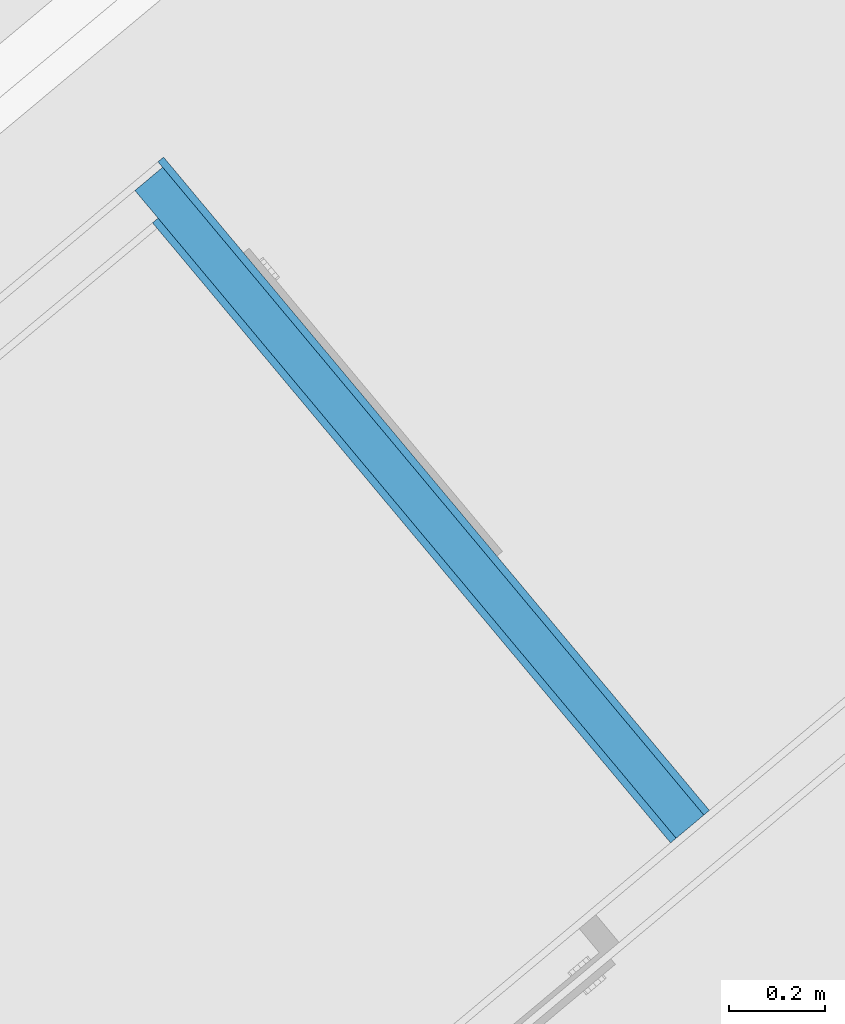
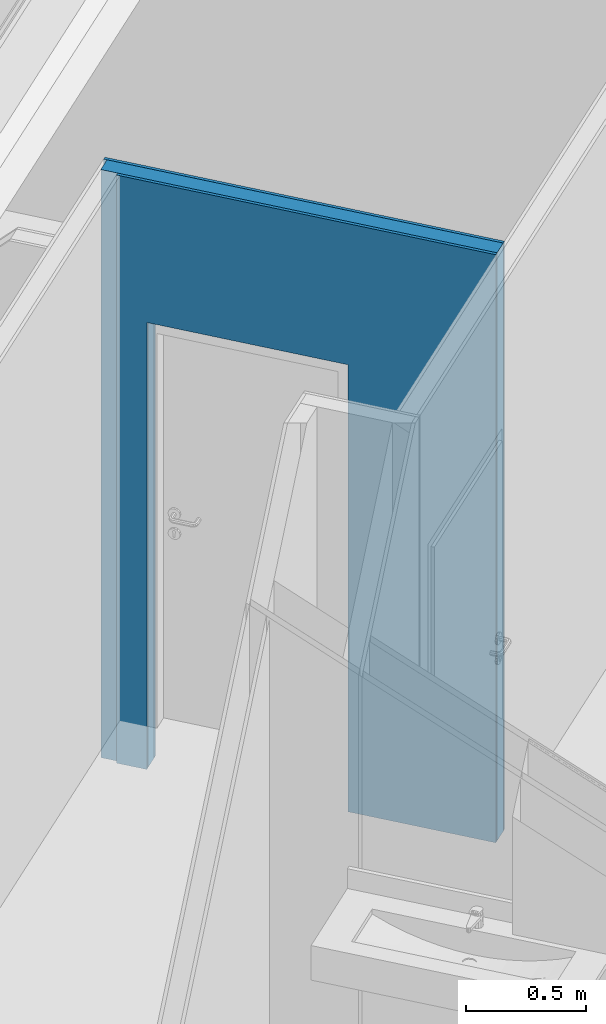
# One storey, part 2 of 47: 3 building element parts, 1 opening, 1 element without a shape of its own.
"""IFC4 building model written with IfcOpenShell, lengths in metres."""

import ifcopenshell
import ifcopenshell.guid

model = None  # the IFC model being written
_history = None  # IfcOwnerHistory: only IFC2X3 demands one
_inside = {}  # id of a spatial element -> (the spatial element, [elements in it])
_under = {}  # id of a project, library or spatial element -> (it, [spatial elements below it])
_declared = {}  # id of a project -> (the project, [libraries it declares])
_typed = {}  # id of a type object -> (the type object, [elements of that type])
_made_of = {}  # id of a material, layer set ... -> (it, [elements and type objects made of it])


def new_model(schema):
    """Start an empty IFC model of exactly this schema.

    Asked for "IFC4X3", IfcOpenShell would pick the latest addendum, in which some entities
    have other attributes; the version numbers below select the first issue.
    IFC2X3 requires an IfcOwnerHistory on every rooted entity: one is made here for all.
    """
    global model, _history
    if schema == "IFC4X3":
        model = ifcopenshell.file(schema_version=(4, 3, 0, 0))
    else:
        model = ifcopenshell.file(schema=schema)
    _inside.clear()
    _under.clear()
    _declared.clear()
    _typed.clear()
    _made_of.clear()
    _history = None
    if model.schema == "IFC2X3":
        org = make("IfcOrganization", Name="unknown")
        user = make(
            "IfcPersonAndOrganization",
            ThePerson=make("IfcPerson", FamilyName="unknown"),
            TheOrganization=org,
        )
        app = make(
            "IfcApplication",
            ApplicationDeveloper=org,
            Version="unknown",
            ApplicationFullName="unknown",
            ApplicationIdentifier="unknown",
        )
        _history = make(
            "IfcOwnerHistory",
            OwningUser=user,
            OwningApplication=app,
            ChangeAction="ADDED",
            CreationDate=0,
        )
    return model


def make(cls, **values):
    """One entity of the class cls with the attributes given. An attribute that is None is left unset."""
    return model.create_entity(
        cls, **{name: value for name, value in values.items() if value is not None}
    )


def entity(cls, *values):
    """Any entity or typed value of the class cls, its attributes in the order of the schema. None: left unset."""
    e = model.create_entity(cls)
    for i, value in enumerate(values):
        if value is not None:
            e[i] = value
    return e


def rooted(cls, **values):
    """An entity with a GlobalId (a new one), such as an element, a storey or a relation."""
    return make(cls, GlobalId=ifcopenshell.guid.new(), OwnerHistory=_history, **values)


def si_unit(unit_type, name, prefix=None):
    """IfcSIUnit, for example si_unit("LENGTHUNIT", "METRE", prefix="MILLI")."""
    return make("IfcSIUnit", UnitType=unit_type, Prefix=prefix, Name=name)


def converted_unit(unit_type, name, factor, base, dimensions=None, offset=None):
    """IfcConversionBasedUnit, such as the inch: factor (a typed value) times the base unit."""
    return make(
        "IfcConversionBasedUnit"
        if offset is None
        else "IfcConversionBasedUnitWithOffset",
        ConversionOffset=offset,
        Dimensions=None
        if dimensions is None
        else entity("IfcDimensionalExponents", *dimensions),
        UnitType=unit_type,
        Name=name,
        ConversionFactor=make(
            "IfcMeasureWithUnit", ValueComponent=factor, UnitComponent=base
        ),
    )


def derived_unit(unit_type, elements):
    """IfcDerivedUnit: a product of units, each with its exponent."""
    return make(
        "IfcDerivedUnit",
        Elements=[
            make("IfcDerivedUnitElement", Unit=unit, Exponent=power)
            for unit, power in elements
        ],
        UnitType=unit_type,
    )


def assignment(units):
    """IfcUnitAssignment: the units of a project."""
    return None if units is None else make("IfcUnitAssignment", Units=units)


def point(xyz):
    """IfcCartesianPoint."""
    return None if xyz is None else make("IfcCartesianPoint", Coordinates=xyz)


def direction(xyz):
    """IfcDirection."""
    return None if xyz is None else make("IfcDirection", DirectionRatios=xyz)


def frame(location, z_axis=None, x_axis=None):
    """IfcAxis2Placement3D, a coordinate frame: its origin and axes. An axis left out is left unset."""
    return make(
        "IfcAxis2Placement3D",
        Location=point(location),
        Axis=direction(z_axis),
        RefDirection=direction(x_axis),
    )


def origin_with_axes():
    """The frame at (0, 0, 0) with the z axis (0, 0, 1) and the x axis (1, 0, 0) written out."""
    return frame((0.0, 0.0, 0.0), z_axis=(0.0, 0.0, 1.0), x_axis=(1.0, 0.0, 0.0))


def place(relative_to, where):
    """IfcLocalPlacement: puts the frame where relative to a parent placement (None: the world)."""
    return make(
        "IfcLocalPlacement", PlacementRelTo=relative_to, RelativePlacement=where
    )


def context(
    kind, dimensions, precision=None, world=None, true_north=None, identifier=None
):
    """IfcGeometricRepresentationContext, for example the 3D "Model" context."""
    return make(
        "IfcGeometricRepresentationContext",
        ContextIdentifier=identifier,
        ContextType=kind,
        CoordinateSpaceDimension=dimensions,
        Precision=precision,
        WorldCoordinateSystem=world,
        TrueNorth=true_north,
    )


def subcontext(parent, identifier, kind, view, scale=None):
    """IfcGeometricRepresentationSubContext, for example "Body" below "Model"."""
    return make(
        "IfcGeometricRepresentationSubContext",
        ContextIdentifier=identifier,
        ContextType=kind,
        ParentContext=parent,
        TargetScale=scale,
        TargetView=view,
    )


def project(units=None, contexts=None):
    """IfcProject with its units and contexts."""
    return rooted(
        "IfcProject",
        Name="project",
        RepresentationContexts=contexts,
        UnitsInContext=assignment(units),
    )


def spatial(cls, under=None, at=None, **own):
    """A site, building, storey or space (cls), placed at a placement, below another one or the project."""
    s = rooted(cls, ObjectPlacement=at, **own)
    if under is not None:
        _under.setdefault(under.id(), (under, []))[1].append(s)
    return s


def point_list(points):
    """IfcCartesianPointList2D or 3D."""
    cls = (
        "IfcCartesianPointList2D" if len(points[0]) == 2 else "IfcCartesianPointList3D"
    )
    return make(cls, CoordList=points)


def polygons(points, faces, closed=None, point_numbers=None):
    """IfcPolygonalFaceSet: a face is its outer loop, then its inner loops; points numbered from 1."""
    made = []
    for loops in faces:
        if len(loops) == 1:
            made.append(make("IfcIndexedPolygonalFace", CoordIndex=loops[0]))
        else:
            made.append(
                make(
                    "IfcIndexedPolygonalFaceWithVoids",
                    CoordIndex=loops[0],
                    InnerCoordIndices=loops[1:],
                )
            )
    return make(
        "IfcPolygonalFaceSet",
        Coordinates=point_list(points),
        Closed=closed,
        Faces=made,
        PnIndex=point_numbers,
    )


def shape(context_of_items, identifier, shape_type, items):
    """IfcShapeRepresentation: the items that make up one representation, for example the "Body"."""
    return make(
        "IfcShapeRepresentation",
        ContextOfItems=context_of_items,
        RepresentationIdentifier=identifier,
        RepresentationType=shape_type,
        Items=items,
    )


def material(Name=None, Category=None):
    """IfcMaterial."""
    return make("IfcMaterial", Name=Name, Category=Category)


def made_of(thing, what):
    """Note that an element or type object is made of a material, layer set ...; save() writes the relation."""
    if what is not None:
        _made_of.setdefault(what.id(), (what, []))[1].append(thing)
    return thing


def type_object(cls, material=None, **own):
    """A type object (cls), such as IfcWallType, which elements share."""
    return made_of(rooted(cls, **own), material)


def element(
    cls,
    number,
    at=None,
    inside=None,
    cuts=None,
    type_object=None,
    material=None,
    context=None,
    identifier="Body",
    shape_type=None,
    held_by="IfcProductDefinitionShape",
    body=None,
    shapes=None,
    **own,
):
    """One element of the class cls, such as IfcWall. Its Tag is "e" and its number.

    at: its placement. inside: the storey or other place that contains it. cuts: it is an
    opening in that element (IfcRelVoidsElement). A single representation is given by context,
    identifier, shape_type and body (its items); several are given by shapes. held_by: the class
    of the entity that holds the representations. save() writes the other relations.
    """
    e = rooted(cls, Tag="e%d" % number, ObjectPlacement=at, **own)
    if body is not None:
        shapes = [shape(context, identifier, shape_type, body)]
    if shapes is not None:
        e.Representation = make(held_by, Representations=shapes)
    if inside is not None:
        _inside.setdefault(inside.id(), (inside, []))[1].append(e)
    if cuts is not None:
        rooted(
            "IfcRelVoidsElement", RelatingBuildingElement=cuts, RelatedOpeningElement=e
        )
    if type_object is not None:
        _typed.setdefault(type_object.id(), (type_object, []))[1].append(e)
    return made_of(e, material)


def aggregate(whole, parts):
    """IfcRelAggregates: a whole, such as a stair, and the parts it consists of."""
    return rooted("IfcRelAggregates", RelatingObject=whole, RelatedObjects=parts)


def save(model, path):
    """Write the relations noted so far, then the file.

    IfcRelAggregates (storeys below a building ...), IfcRelContainedInSpatialStructure (elements
    in a storey), IfcRelDefinesByType, IfcRelAssociatesMaterial and IfcRelDeclares: one each for
    every whole, place, type object, material and project.
    """
    for whole, parts in _under.values():
        aggregate(whole, parts)
    for where, things in _inside.values():
        rooted(
            "IfcRelContainedInSpatialStructure",
            RelatedElements=things,
            RelatingStructure=where,
        )
    for kind, things in _typed.values():
        rooted("IfcRelDefinesByType", RelatedObjects=things, RelatingType=kind)
    for what, things in _made_of.values():
        rooted("IfcRelAssociatesMaterial", RelatedObjects=things, RelatingMaterial=what)
    for by, libraries in _declared.values():
        rooted("IfcRelDeclares", RelatingContext=by, RelatedDefinitions=libraries)
    model.write(path)


model = new_model("IFC4")

# Units and contexts
model_context = context("Model", 3, precision=1e-05, world=origin_with_axes(), true_north=direction((0.0, 1.0)))
body_context = subcontext(model_context, "Body", "Model", "MODEL_VIEW")
ifc_project = project(units=[si_unit("LENGTHUNIT", "METRE"), si_unit("AREAUNIT", "SQUARE_METRE"), si_unit("VOLUMEUNIT", "CUBIC_METRE"), converted_unit("PLANEANGLEUNIT", "DEGREE", entity("IfcPlaneAngleMeasure", 0.0174532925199), si_unit("PLANEANGLEUNIT", "RADIAN"), dimensions=[0, 0, 0, 0, 0, 0, 0]), converted_unit("TIMEUNIT", "Year", entity("IfcTimeMeasure", 31556926.0), si_unit("TIMEUNIT", "SECOND"), dimensions=[0, 0, 1, 0, 0, 0, 0]), si_unit("MASSUNIT", "GRAM", prefix="KILO"), si_unit("THERMODYNAMICTEMPERATUREUNIT", "DEGREE_CELSIUS"), si_unit("LUMINOUSINTENSITYUNIT", "LUMEN"), si_unit("ENERGYUNIT", "JOULE", prefix="MEGA"), derived_unit("THERMALCONDUCTANCEUNIT", [(si_unit("POWERUNIT", "WATT"), 1), (si_unit("LENGTHUNIT", "METRE"), -1), (si_unit("THERMODYNAMICTEMPERATUREUNIT", "KELVIN"), -1)]), derived_unit("SPECIFICHEATCAPACITYUNIT", [(si_unit("ENERGYUNIT", "JOULE"), 1), (si_unit("MASSUNIT", "GRAM", prefix="KILO"), -1), (si_unit("THERMODYNAMICTEMPERATUREUNIT", "KELVIN"), -1)]), derived_unit("MASSDENSITYUNIT", [(si_unit("MASSUNIT", "GRAM", prefix="KILO"), 1), (si_unit("VOLUMEUNIT", "CUBIC_METRE"), -1)])], contexts=[model_context])

# Site, building, storey
site_placement = place(None, frame((-0.00153261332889, -0.00661245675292, 0.0), z_axis=(0.0, 0.0, 1.0), x_axis=(1.0, 0.0, 0.0)))
site = spatial("IfcSite", under=ifc_project, at=site_placement, Name="Site", CompositionType="ELEMENT")
building_placement = place(site_placement, origin_with_axes())
building = spatial("IfcBuilding", under=site, at=building_placement, Name="Building", CompositionType="ELEMENT")
storey_placement = place(building_placement, frame((0.0, 0.0, 8.66), z_axis=(0.0, 0.0, 1.0), x_axis=(1.0, 0.0, 0.0)))
storey = spatial("IfcBuildingStorey", under=building, at=storey_placement, Name="DG2", CompositionType="ELEMENT", Elevation=8.66)

# Wall, opening, building element parts
wall_type = type_object("IfcWallType", Name="IW LB 01 Leichtbautrennwand einfach 10,5 cm 105", PredefinedType="NOTDEFINED")
wall_placement = place(storey_placement, frame((6.90429533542, 22.4051084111, 0.0), z_axis=(0.0, 0.0, 1.0), x_axis=(-0.641198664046, 0.767374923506, 0.0)))
wall = element("IfcWall", 1, at=wall_placement, inside=storey, type_object=wall_type, Name="Wand-013", PredefinedType="NOTDEFINED")
opening_placement = place(wall_placement, frame((1.20308941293, 0.0, 0.22), z_axis=(0.0, 0.0, 1.0), x_axis=(1.0, 0.0, 0.0)))
element("IfcOpeningElement", 2, at=opening_placement, cuts=wall, Name="Tür-017", context=body_context, identifier="Reference", shape_type="Tessellation", body=[
    polygons([(0.445, 1.02706595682, 2.045), (0.445, 1.02706595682, -0.22), (-0.445, 1.02706595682, -0.22), (-0.445, 1.02706595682, 2.045), (0.445, -0.922065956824, 2.045), (0.445, -0.922065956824, -0.22), (-0.445, -0.922065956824, -0.22), (-0.445, -0.922065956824, 2.045)], [[[1, 2, 3, 4]], [[5, 6, 2, 1]], [[6, 7, 3, 2]], [[7, 8, 4, 3]], [[8, 5, 1, 4]], [[7, 6, 5, 8]]], closed=True),
])
ifc_material_1 = material(Name="Gipskarton")
building_element_part_1_placement = place(wall_placement, origin_with_axes())
building_element_part_1 = element("IfcBuildingElementPart", 3, at=building_element_part_1_placement, material=ifc_material_1, Name="Gipskarton", PredefinedType="NOTDEFINED", context=body_context, shape_type="Tessellation", body=[
    polygons([(1.64808941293, 0.09, 2.265), (1.64808941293, 0.09, 0.22), (1.64808938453, 0.09, 0.0), (1.78197536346, 0.09, 0.0), (1.78197536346, 0.09, 2.98), (0.104998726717, 0.09, 2.98), (0.104998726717, 0.09, 0.0), (0.758089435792, 0.09, 0.0), (0.75808941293, 0.09, 0.22), (0.75808941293, 0.09, 2.265), (1.64808941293, 0.105, 2.265), (1.64808941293, 0.105, 0.22), (1.64808938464, 0.105, 0.0), (1.78198226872, 0.105, 0.0), (1.78198226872, 0.105, 2.98), (0.104998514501, 0.105, 2.98), (0.104998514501, 0.105, 0.0), (0.75808943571, 0.105, 0.0), (0.75808941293, 0.105, 0.22), (0.75808941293, 0.105, 2.265)], [[[1, 2, 3, 4, 5, 6, 7, 8, 9, 10]], [[2, 1, 11, 12]], [[2, 12, 13, 3]], [[13, 14, 4, 3]], [[14, 15, 5, 4]], [[15, 16, 6, 5]], [[17, 7, 6, 16]], [[8, 7, 17, 18]], [[19, 9, 8, 18]], [[10, 9, 19, 20]], [[1, 10, 20, 11]], [[20, 19, 18, 17, 16, 15, 14, 13, 12, 11]]], closed=True),
])
ifc_material_2 = material(Name="Mineralwolle weich")
building_element_part_2_placement = place(wall_placement, origin_with_axes())
building_element_part_2 = element("IfcBuildingElementPart", 4, at=building_element_part_2_placement, material=ifc_material_2, Name="Mineralwolle weich", PredefinedType="NOTDEFINED", context=body_context, shape_type="Tessellation", body=[
    polygons([(1.64808941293, 0.015, 2.265), (1.64808941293, 0.015, 0.22), (1.64808938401, 0.015, 0.0), (1.85694084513, 0.015, 0.0), (1.85694084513, 0.015, 2.98), (0.104999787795, 0.015, 2.98), (0.104999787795, 0.015, 0.0), (0.758089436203, 0.015, 0.0), (0.75808941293, 0.015, 0.22), (0.75808941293, 0.015, 2.265), (1.64808941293, 0.09, 2.265), (1.64808941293, 0.09, 0.22), (1.64808938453, 0.09, 0.0), (1.85697537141, 0.09, 0.0), (1.85697537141, 0.09, 2.98), (0.104998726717, 0.09, 2.98), (0.104998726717, 0.09, 0.0), (0.758089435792, 0.09, 0.0), (0.75808941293, 0.09, 0.22), (0.75808941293, 0.09, 2.265)], [[[1, 2, 3, 4, 5, 6, 7, 8, 9, 10]], [[2, 1, 11, 12]], [[2, 12, 13, 3]], [[13, 14, 4, 3]], [[14, 15, 5, 4]], [[15, 16, 6, 5]], [[17, 7, 6, 16]], [[8, 7, 17, 18]], [[19, 9, 8, 18]], [[10, 9, 19, 20]], [[1, 10, 20, 11]], [[20, 19, 18, 17, 16, 15, 14, 13, 12, 11]]], closed=True),
])
building_element_part_3_placement = place(wall_placement, origin_with_axes())
building_element_part_3 = element("IfcBuildingElementPart", 5, at=building_element_part_3_placement, material=ifc_material_1, Name="Gipskarton", PredefinedType="NOTDEFINED", context=body_context, shape_type="Tessellation", body=[
    polygons([(1.64808941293, -4.80711932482e-08, 2.265), (1.64808941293, 3.58700624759e-08, 0.22), (1.64808938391, 3.58700624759e-08, 0.0), (1.87193394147, 0.0, 0.0), (1.87193394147, 0.0, 2.98), (0.105000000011, 0.0, 2.98), (0.105000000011, 0.0, 0.0), (0.758089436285, -4.80711896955e-08, 0.0), (0.75808941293, -4.80711896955e-08, 0.22), (0.75808941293, -4.80711896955e-08, 2.265), (1.64808941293, 0.015, 2.265), (1.64808941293, 0.015, 0.22), (1.64808938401, 0.015, 0.0), (1.87194084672, 0.015, 0.0), (1.87194084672, 0.015, 2.98), (0.104999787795, 0.015, 2.98), (0.104999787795, 0.015, 0.0), (0.758089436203, 0.015, 0.0), (0.75808941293, 0.015, 0.22), (0.75808941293, 0.015, 2.265)], [[[1, 2, 3, 4, 5, 6, 7, 8, 9, 10]], [[2, 1, 11, 12]], [[2, 12, 13, 3]], [[13, 14, 4, 3]], [[14, 15, 5, 4]], [[15, 16, 6, 5]], [[17, 7, 6, 16]], [[8, 7, 17, 18]], [[19, 9, 8, 18]], [[10, 9, 19, 20]], [[1, 10, 20, 11]], [[20, 19, 18, 17, 16, 15, 14, 13, 12, 11]]], closed=True),
])
aggregate(wall, [building_element_part_1, building_element_part_2, building_element_part_3])

save(model, "model.ifc")
